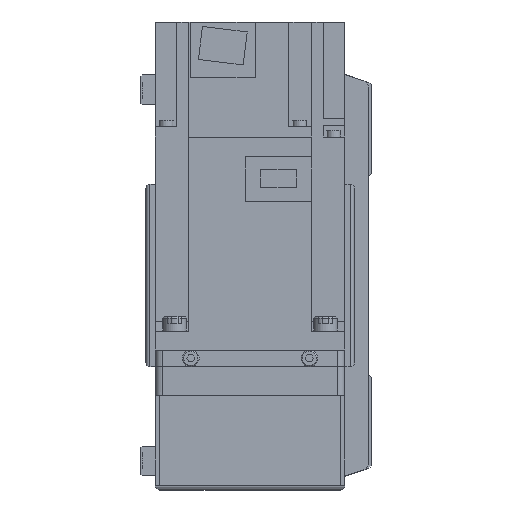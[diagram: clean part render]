
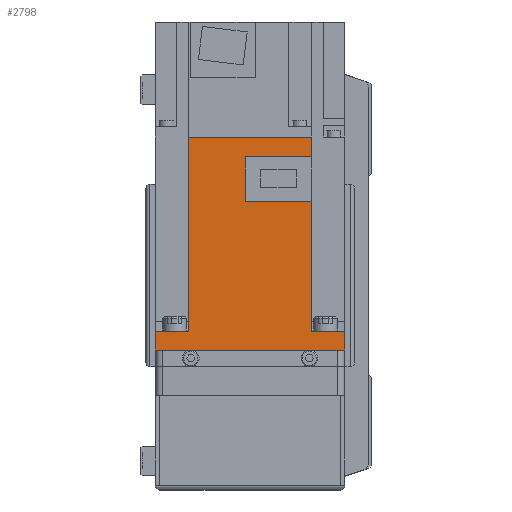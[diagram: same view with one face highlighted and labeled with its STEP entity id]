
A CAD part, left-side view. The second image highlights one B-rep face of the part: STEP entity #2798.
In plain terms, the highlighted planar face has unit normal (-1, 0, 0) as drawn and (1, 0, 0) by its records, which use the part's own axes.
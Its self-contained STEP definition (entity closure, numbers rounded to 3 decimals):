
#2798 = ADVANCED_FACE( '', ( #5990 ), #5991, .F. );
#5990 = FACE_OUTER_BOUND( '', #9422, .T. );
#5991 = PLANE( '', #9423 );
#9422 = EDGE_LOOP( '', ( #17319, #17320, #17321, #17322, #17323, #17324, #17325, #17326, #17327, #17328, #17329, #17330 ) );
#9423 = AXIS2_PLACEMENT_3D( '', #17331, #17332, #17333 );
#17319 = ORIENTED_EDGE( '', *, *, #21179, .F. );
#17320 = ORIENTED_EDGE( '', *, *, #21944, .F. );
#17321 = ORIENTED_EDGE( '', *, *, #19650, .F. );
#17322 = ORIENTED_EDGE( '', *, *, #22396, .T. );
#17323 = ORIENTED_EDGE( '', *, *, #22248, .F. );
#17324 = ORIENTED_EDGE( '', *, *, #20194, .T. );
#17325 = ORIENTED_EDGE( '', *, *, #22624, .T. );
#17326 = ORIENTED_EDGE( '', *, *, #19790, .F. );
#17327 = ORIENTED_EDGE( '', *, *, #21061, .F. );
#17328 = ORIENTED_EDGE( '', *, *, #21945, .F. );
#17329 = ORIENTED_EDGE( '', *, *, #19919, .F. );
#17330 = ORIENTED_EDGE( '', *, *, #22524, .F. );
#17331 = CARTESIAN_POINT( '', ( 40., 89.8, 40. ) );
#17332 = DIRECTION( '', ( -1., 0., 0. ) );
#17333 = DIRECTION( '', ( 0., 0., 1. ) );
#19650 = EDGE_CURVE( '', #23416, #23412, #23418, .T. );
#19790 = EDGE_CURVE( '', #23663, #23665, #23666, .T. );
#19919 = EDGE_CURVE( '', #23893, #23894, #23895, .T. );
#20194 = EDGE_CURVE( '', #24371, #24369, #24372, .T. );
#21061 = EDGE_CURVE( '', #25775, #23663, #25776, .T. );
#21179 = EDGE_CURVE( '', #25027, #25953, #25954, .T. );
#21944 = EDGE_CURVE( '', #23412, #25027, #27076, .T. );
#21945 = EDGE_CURVE( '', #23894, #25775, #27077, .T. );
#22248 = EDGE_CURVE( '', #24371, #27473, #27474, .T. );
#22396 = EDGE_CURVE( '', #23416, #27473, #27659, .T. );
#22524 = EDGE_CURVE( '', #25953, #23893, #27811, .T. );
#22624 = EDGE_CURVE( '', #24369, #23665, #27926, .T. );
#23412 = VERTEX_POINT( '', #28948 );
#23416 = VERTEX_POINT( '', #28954 );
#23418 = LINE( '', #28957, #28958 );
#23663 = VERTEX_POINT( '', #29324 );
#23665 = VERTEX_POINT( '', #29327 );
#23666 = LINE( '', #29328, #29329 );
#23893 = VERTEX_POINT( '', #29684 );
#23894 = VERTEX_POINT( '', #29685 );
#23895 = LINE( '', #29686, #29687 );
#24369 = VERTEX_POINT( '', #30381 );
#24371 = VERTEX_POINT( '', #30384 );
#24372 = LINE( '', #30385, #30386 );
#25027 = VERTEX_POINT( '', #31319 );
#25775 = VERTEX_POINT( '', #32462 );
#25776 = LINE( '', #32463, #32464 );
#25953 = VERTEX_POINT( '', #32762 );
#25954 = LINE( '', #32763, #32764 );
#27076 = LINE( '', #34551, #34552 );
#27077 = LINE( '', #34553, #34554 );
#27473 = VERTEX_POINT( '', #35149 );
#27474 = LINE( '', #35150, #35151 );
#27659 = LINE( '', #35407, #35408 );
#27811 = LINE( '', #35673, #35674 );
#27926 = LINE( '', #35838, #35839 );
#28948 = CARTESIAN_POINT( '', ( 40., 89.8, -25.95 ) );
#28954 = CARTESIAN_POINT( '', ( 40., 89.8, 25.95 ) );
#28957 = CARTESIAN_POINT( '', ( 40., 89.8, 40. ) );
#28958 = VECTOR( '', #36715, 1000. );
#29324 = CARTESIAN_POINT( '', ( 40., 8., -40. ) );
#29327 = CARTESIAN_POINT( '', ( 40., 0., -40. ) );
#29328 = CARTESIAN_POINT( '', ( 40., 89.8, -40. ) );
#29329 = VECTOR( '', #36891, 1000. );
#29684 = CARTESIAN_POINT( '', ( 40., 62.8, 1.8 ) );
#29685 = CARTESIAN_POINT( '', ( 40., 62.8, -25.95 ) );
#29686 = CARTESIAN_POINT( '', ( 40., 62.8, 1.8 ) );
#29687 = VECTOR( '', #37037, 1000. );
#30381 = CARTESIAN_POINT( '', ( 40., 0., 40. ) );
#30384 = CARTESIAN_POINT( '', ( 40., 8., 40. ) );
#30385 = CARTESIAN_POINT( '', ( 40., 89.8, 40. ) );
#30386 = VECTOR( '', #37367, 1000. );
#31319 = CARTESIAN_POINT( '', ( 40., 81.4, -25.95 ) );
#32462 = CARTESIAN_POINT( '', ( 40., 8., -25.95 ) );
#32463 = CARTESIAN_POINT( '', ( 40., 8., 40. ) );
#32464 = VECTOR( '', #38492, 1000. );
#32762 = CARTESIAN_POINT( '', ( 40., 81.4, 1.8 ) );
#32763 = CARTESIAN_POINT( '', ( 40., 81.4, -26. ) );
#32764 = VECTOR( '', #38615, 1000. );
#34551 = CARTESIAN_POINT( '', ( 40., 158., -25.95 ) );
#34552 = VECTOR( '', #39558, 1000. );
#34553 = CARTESIAN_POINT( '', ( 40., 158., -25.95 ) );
#34554 = VECTOR( '', #39559, 1000. );
#35149 = CARTESIAN_POINT( '', ( 40., 8., 25.95 ) );
#35150 = CARTESIAN_POINT( '', ( 40., 8., 40. ) );
#35151 = VECTOR( '', #39865, 1000. );
#35407 = CARTESIAN_POINT( '', ( 40., 158., 25.95 ) );
#35408 = VECTOR( '', #40023, 1000. );
#35673 = CARTESIAN_POINT( '', ( 40., 81.4, 1.8 ) );
#35674 = VECTOR( '', #40141, 1000. );
#35838 = CARTESIAN_POINT( '', ( 40., 0., 40. ) );
#35839 = VECTOR( '', #40219, 1000. );
#36715 = DIRECTION( '', ( 0., 0., -1. ) );
#36891 = DIRECTION( '', ( 0., -1., 0. ) );
#37037 = DIRECTION( '', ( 0., 0., -1. ) );
#37367 = DIRECTION( '', ( 0., -1., 0. ) );
#38492 = DIRECTION( '', ( 0., 0., -1. ) );
#38615 = DIRECTION( '', ( 0., 0., 1. ) );
#39558 = DIRECTION( '', ( 0., -1., 0. ) );
#39559 = DIRECTION( '', ( 0., -1., 0. ) );
#39865 = DIRECTION( '', ( 0., 0., -1. ) );
#40023 = DIRECTION( '', ( 0., -1., 0. ) );
#40141 = DIRECTION( '', ( 0., -1., 0. ) );
#40219 = DIRECTION( '', ( 0., 0., -1. ) );
